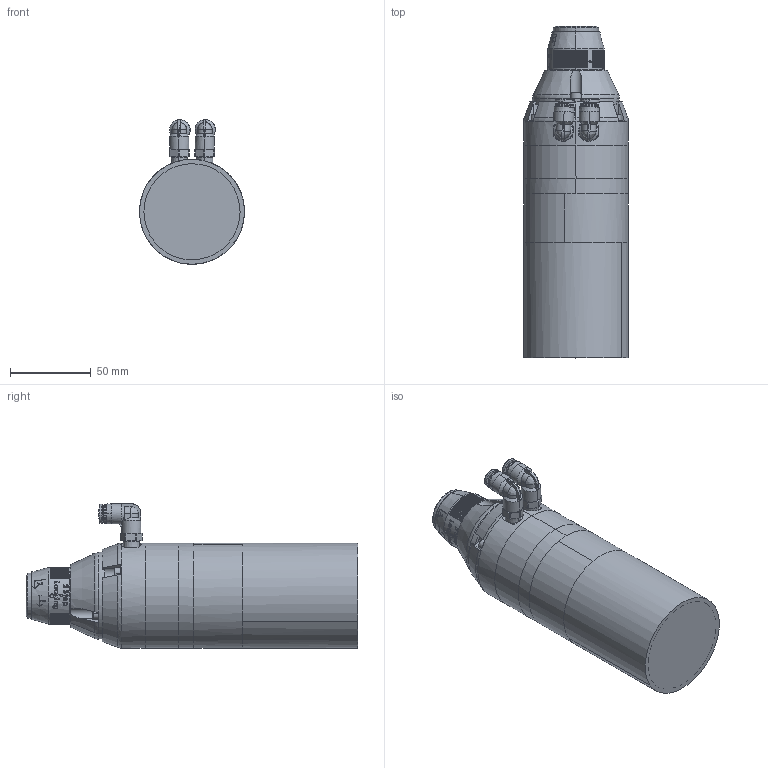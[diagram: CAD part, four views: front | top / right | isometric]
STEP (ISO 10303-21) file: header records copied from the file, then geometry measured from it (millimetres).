
FILE_DESCRIPTION (( 'STEP AP214' ), '1' );
FILE_NAME ('COL-50-T120-900-1100-QBH.STEP', '2018-06-12T20:39:13', ( '' ), ( '' ), 'SwSTEP 2.0', 'SolidWorks 2018', '' );
FILE_SCHEMA (( 'AUTOMOTIVE_DESIGN' ));
Length unit declared in the file: inch
Products named in the file (1): COL-50-T120-900-1100-QBH
Bounding box: 65.02 x 205.53 x 89.5 mm (x, y, z)
Surface area: 69035 mm2 (no closed solid volume)
Topology: 0 solids, 16 shells, 1197 faces, 3575 edges, 2146 vertices
Faces by surface type: bspline 534, cylinder 371, plane 208, cone 66, torus 18
Entity records: 54815 total; most frequent: CARTESIAN_POINT 28188, ORIENTED_EDGE 6160, DIRECTION 4491, EDGE_CURVE 3162, VERTEX_POINT 2146, AXIS2_PLACEMENT_3D 1816, EDGE_LOOP 1414, ADVANCED_FACE 1197
